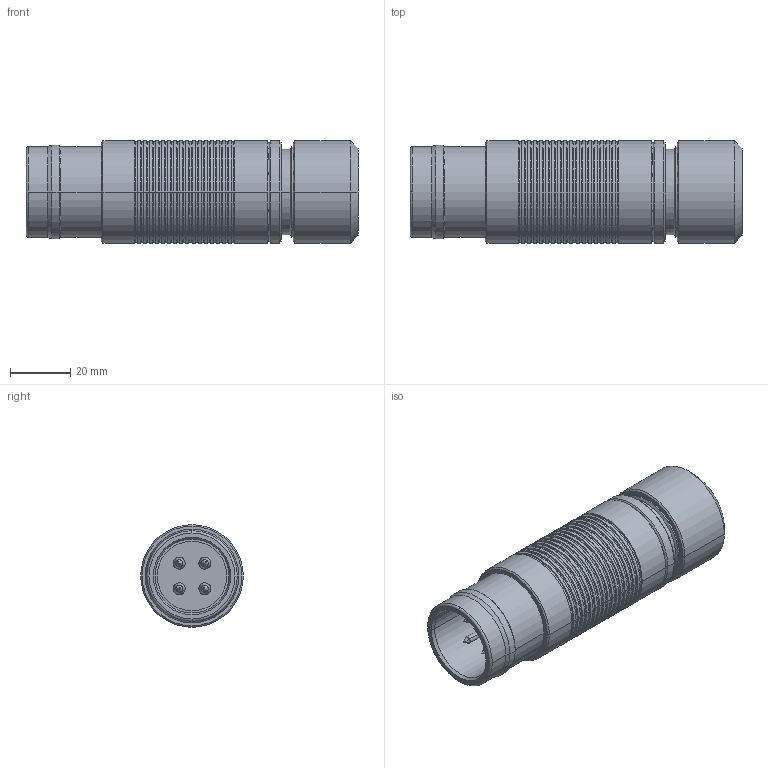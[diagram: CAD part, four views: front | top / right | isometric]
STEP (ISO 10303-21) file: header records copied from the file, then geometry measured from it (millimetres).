
FILE_DESCRIPTION((''),'2;1');
FILE_NAME('W:\214-194.stp','2004-01-23T15:25:04',('KAA'),(''),'Autodesk Inventor (R) 6.0','Autodesk Inventor (R) 6.0','');
FILE_SCHEMA(('CONFIG_CONTROL_DESIGN'));
Length unit declared in the file: millimetre
Products named in the file (1): 214-194
Bounding box: 110 x 34 x 34 mm (x, y, z)
Volume: 58561.2 mm3; surface area: 23741 mm2
Topology: 1 solids, 1 shells, 306 faces, 660 edges, 364 vertices
Faces by surface type: cylinder 142, cone 114, plane 26, bspline 16, torus 8
Entity records: 8407 total; most frequent: DIRECTION 1590, CARTESIAN_POINT 1587, ORIENTED_EDGE 1288, AXIS2_PLACEMENT_3D 655, EDGE_CURVE 644, VERTEX_POINT 364, CIRCLE 352, EDGE_LOOP 330
